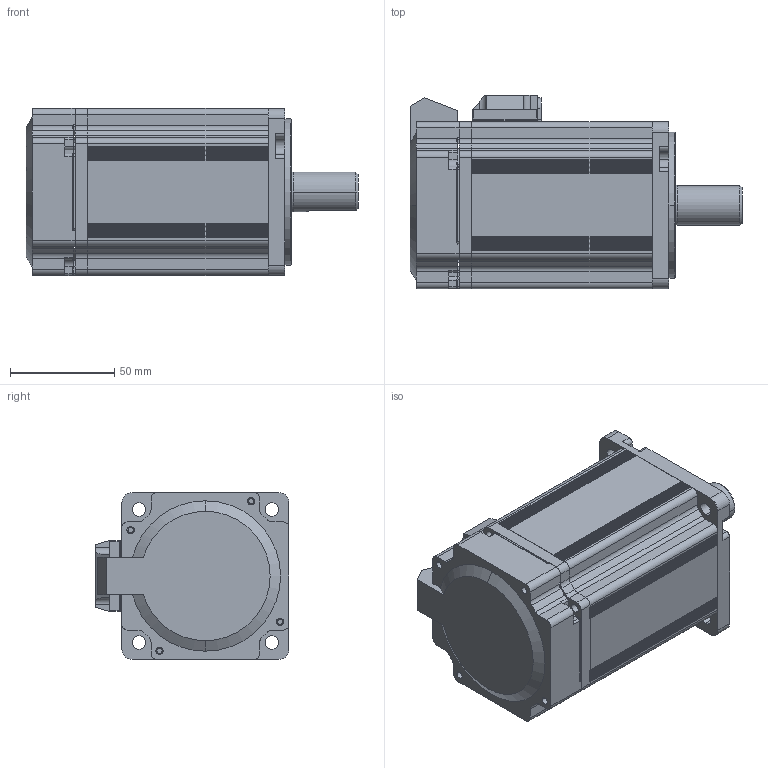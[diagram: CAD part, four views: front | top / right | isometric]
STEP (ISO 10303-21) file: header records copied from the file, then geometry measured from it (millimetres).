
FILE_DESCRIPTION (( 'STEP AP203' ), '1' );
FILE_NAME ('湮嫦講蚾饜极.STEP', '2020-09-09T06:42:50', ( '' ), ( '' ), 'SwSTEP 2.0', 'SolidWorks 2016', '' );
FILE_SCHEMA (( 'CONFIG_CONTROL_DESIGN' ));
Length unit declared in the file: millimetre
Products named in the file (1): 湮嫦講蚾饜极
Bounding box: 159 x 92.8 x 80 mm (x, y, z)
Surface area: 70579 mm2 (no closed solid volume)
Topology: 0 solids, 133 shells, 1316 faces, 4392 edges, 3177 vertices
Faces by surface type: cylinder 770, plane 444, cone 32, sphere 28, bspline 25, torus 17
Entity records: 49076 total; most frequent: CARTESIAN_POINT 10164, DIRECTION 8870, ORIENTED_EDGE 6754, EDGE_CURVE 4392, AXIS2_PLACEMENT_3D 3273, VERTEX_POINT 3177, VECTOR 2324, LINE 2324
